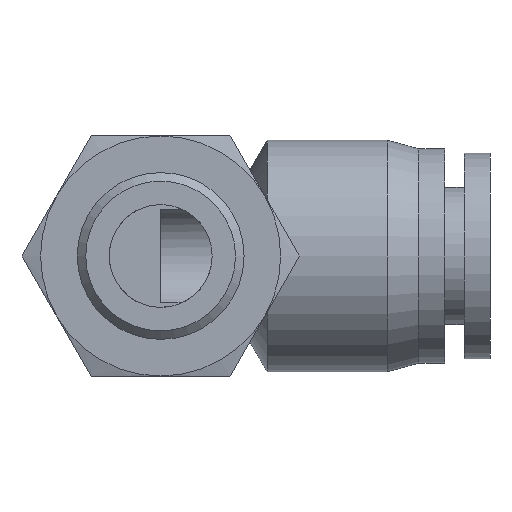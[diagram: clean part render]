
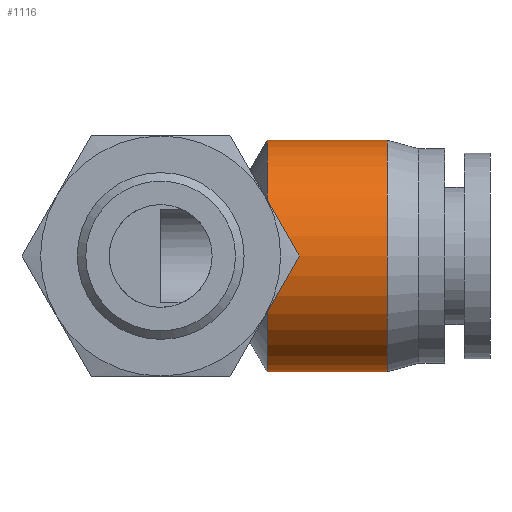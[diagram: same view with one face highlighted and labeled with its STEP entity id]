
A CAD part, front view. The second image highlights one B-rep face of the part: STEP entity #1116.
In plain terms, the highlighted cylindrical face has radius 6.75 mm (diameter 13.5 mm), a full revolution.
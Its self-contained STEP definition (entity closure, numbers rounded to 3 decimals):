
#1082=CARTESIAN_POINT('',(6.2,6.75,0.0));
#1083=VERTEX_POINT('',#1082);
#1084=CARTESIAN_POINT('',(6.2,0.0,0.0));
#1085=DIRECTION('',(1.0,0.0,0.0));
#1086=DIRECTION('',(0.0,1.0,0.0));
#1087=AXIS2_PLACEMENT_3D('',#1084,#1085,#1086);
#1088=CIRCLE('',#1087,6.75);
#1089=EDGE_CURVE('',#1083,#1083,#1088,.T.);
#1097=CARTESIAN_POINT('',(9.7,0.0,0.0));
#1098=DIRECTION('',(1.0,0.0,0.0));
#1099=DIRECTION('',(0.0,1.0,0.0));
#1100=AXIS2_PLACEMENT_3D('',#1097,#1098,#1099);
#1101=CYLINDRICAL_SURFACE('',#1100,6.75);
#1102=CARTESIAN_POINT('',(13.2,6.75,0.0));
#1103=VERTEX_POINT('',#1102);
#1104=CARTESIAN_POINT('',(13.2,0.0,0.0));
#1105=DIRECTION('',(1.0,0.0,0.0));
#1106=DIRECTION('',(0.0,1.0,0.0));
#1107=AXIS2_PLACEMENT_3D('',#1104,#1105,#1106);
#1108=CIRCLE('',#1107,6.75);
#1109=EDGE_CURVE('',#1103,#1103,#1108,.T.);
#1110=ORIENTED_EDGE('',*,*,#1109,.F.);
#1111=EDGE_LOOP('',(#1110));
#1112=FACE_OUTER_BOUND('',#1111,.T.);
#1113=ORIENTED_EDGE('',*,*,#1089,.T.);
#1114=EDGE_LOOP('',(#1113));
#1115=FACE_BOUND('',#1114,.T.);
#1116=ADVANCED_FACE('',(#1112,#1115),#1101,.T.);
